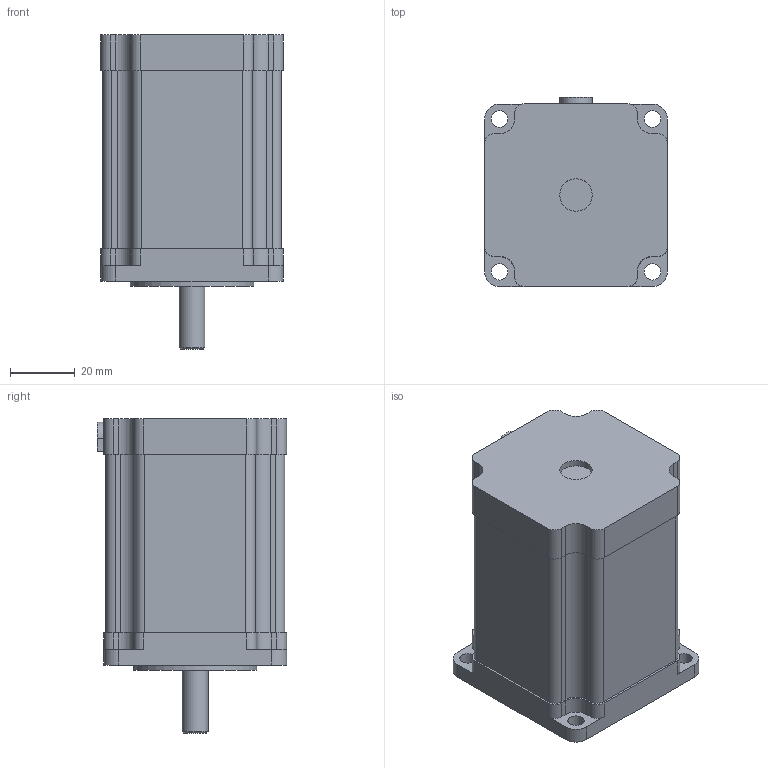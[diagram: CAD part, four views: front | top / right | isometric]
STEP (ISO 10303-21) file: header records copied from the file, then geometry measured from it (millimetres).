
FILE_DESCRIPTION(('STEP AP214'), '1');
FILE_NAME('PL57H76-d8 - Øàãîâûé ýëåêòðîäâèãàòåëü', '', ('UNSPECIFIED'), ('UNSPECIFIED'), 'ASCON STEP Converter 1.3', 'ASCON Math Kernel', '');
FILE_SCHEMA(('AUTOMOTIVE_DESIGN { 1 0 10303 214 3 1 1}'));
Length unit declared in the file: millimetre
Products named in the file (1): PL57H76-3.0-4
Bounding box: 56.4 x 58.4 x 97 mm (x, y, z)
Volume: 213677.1 mm3; surface area: 23126 mm2
Topology: 1 solids, 1 shells, 465 faces, 1256 edges, 837 vertices
Faces by surface type: plane 277, extrusion 134, cylinder 53, cone 1
Full cylindrical faces by diameter (mm): 4 x1, 5.1 x4, 8 x1, 10 x1, 38.1 x1
Entity records: 18725 total; most frequent: CARTESIAN_POINT 3687, ORIENTED_EDGE 2494, DIRECTION 1884, EDGE_CURVE 1247, VECTOR 1006, LINE 872, VERTEX_POINT 837, EDGE_LOOP 526
